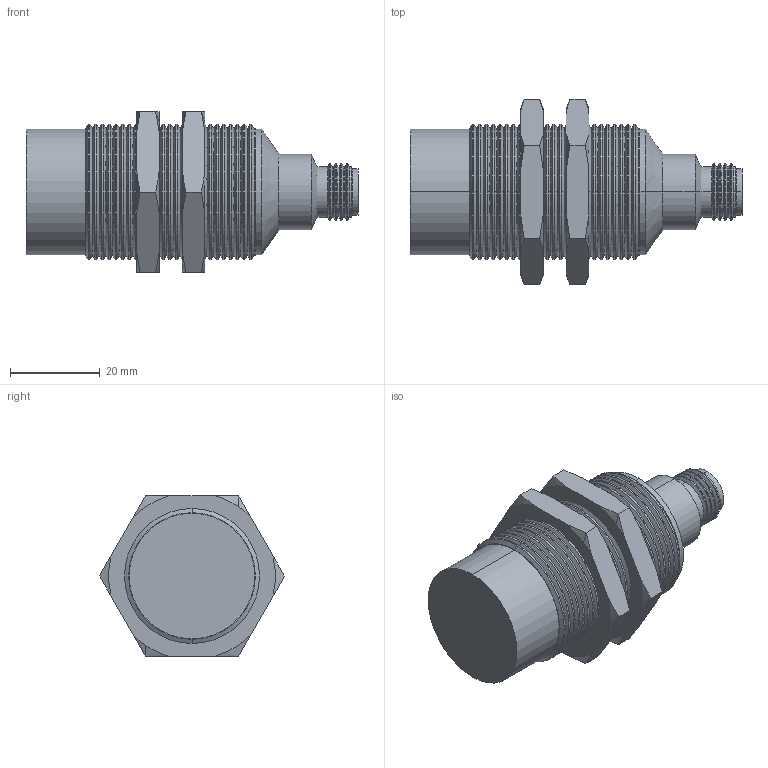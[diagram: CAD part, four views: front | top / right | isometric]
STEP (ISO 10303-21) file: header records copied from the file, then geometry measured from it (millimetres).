
FILE_DESCRIPTION (( 'STEP AP203' ), '1' );
FILE_NAME ('90-XXXX-034.STEP', '2015-10-28T13:23:11', ( 'Sam' ), ( 'Spade' ), 'SwSTEP 2.0', 'SolidWorks 2002296', '' );
FILE_SCHEMA (( 'CONFIG_CONTROL_DESIGN' ));
Length unit declared in the file: inch
Products named in the file (10): 90-XXXX-034; Imported342; 49-9066; Imported336; Imported335; Imported337; Imported341; Imported340; Imported339; Imported338
Assembly tree (9 placements, depth 2):
  90-XXXX-034
    Imported335
    Imported339
    Imported341
    Imported337
    Imported340
    49-9066
    Imported336
    Imported342
    Imported338
Bounding box: 73.81 x 41.15 x 35.64 mm (x, y, z)
Volume: 41046.7 mm3; surface area: 17499.8 mm2
Topology: 9 solids, 9 shells, 360 faces, 765 edges, 431 vertices
Faces by surface type: cone 164, cylinder 103, bspline 48, plane 45
Entity records: 11367 total; most frequent: CARTESIAN_POINT 2660, DIRECTION 1719, ORIENTED_EDGE 1518, EDGE_CURVE 759, AXIS2_PLACEMENT_3D 702, VERTEX_POINT 431, EDGE_LOOP 380, CIRCLE 378
